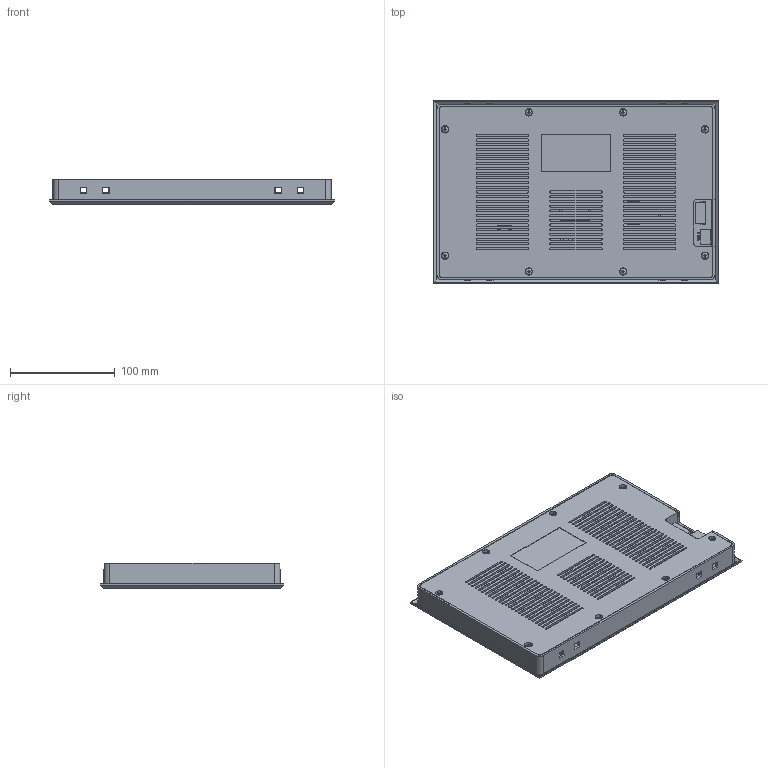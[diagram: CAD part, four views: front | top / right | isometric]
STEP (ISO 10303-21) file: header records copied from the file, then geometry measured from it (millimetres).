
FILE_DESCRIPTION(/* description */ (''),/* implementation_level */ '2;1');
FILE_NAME(/* name */ '3D_SDWe101S17.stp',/* time_stamp */ '2021-01-14T14:49:57+08:00',/* author */ (''),/* organization */ (''),/* preprocessor_version */ 'ST-DEVELOPER v15',/* originating_system */ 'SIEMENS PLM Software NX 8.5',/* authorisation */ '');
FILE_SCHEMA (('AP203_CONFIGURATION_CONTROLLED_3D_DESIGN_OF_MECHANICAL_PARTS_AND_ASSEMBLIES_MIM_LF { 1 0 10303 403 2 1 2}'));
Products named in the file (8): 20063_id11_x_t; 20062_id6_x_t; M3X6; DPK-VGTC01_dxf; 10.1 -yejingping; 10.1chumoping; 10.1-20-10-10_x_t; SDWe101S17
Assembly tree (14 placements, depth 3):
  SDWe101S17
    10.1chumoping
    10.1 -yejingping
    DPK-VGTC01_dxf
    10.1-20-10-10_x_t
      20062_id6_x_t
      20063_id11_x_t
    M3X6  x8
Bounding box: 272.4 x 175 x 24 mm (x, y, z)
Volume: 333368.3 mm3; surface area: 374352.5 mm2
Topology: 294 solids, 295 shells, 2704 faces, 6201 edges, 4124 vertices
Faces by surface type: plane 2248, cone 203, bspline 160, cylinder 74, sphere 8, torus 8, extrusion 3
Full cylindrical faces by diameter (mm): 2.5 x8, 2.7 x2, 2.874 x8, 3 x8, 3.2 x8, 3.5 x4, 5.6 x8, 7 x8
Entity records: 73910 total; most frequent: CARTESIAN_POINT 12601, ORIENTED_EDGE 11062, DIRECTION 10861, EDGE_CURVE 5531, VECTOR 4853, LINE 4850, VERTEX_POINT 3713, AXIS2_PLACEMENT_3D 3004
